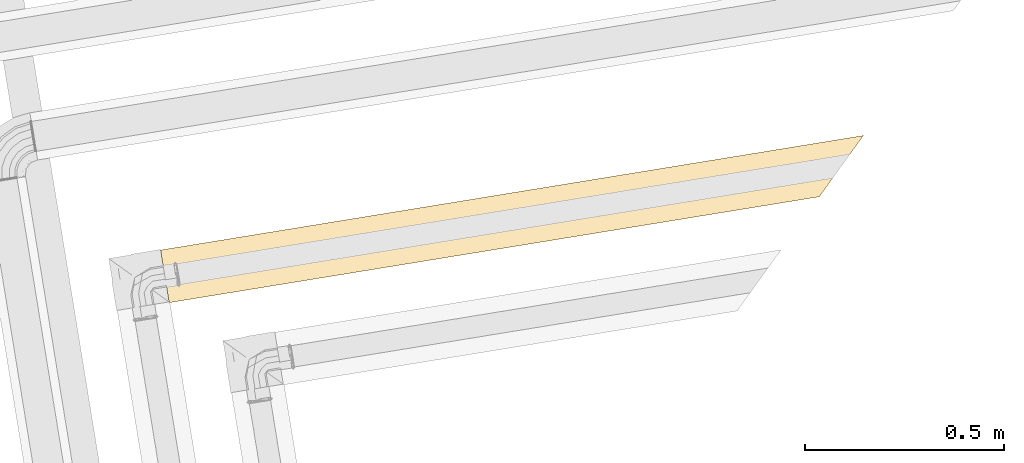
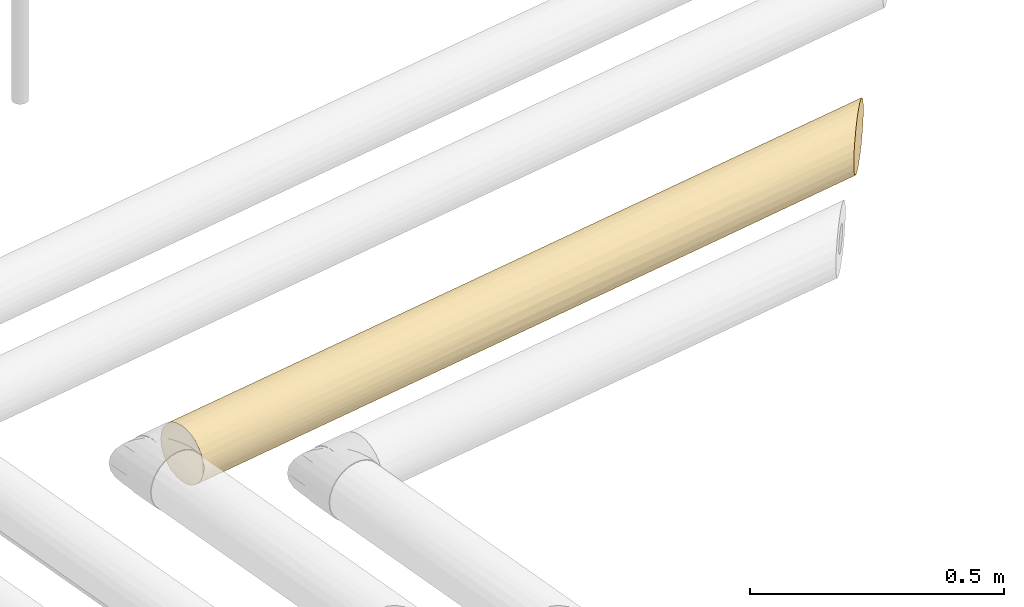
# One storey, part 5 of 46: 1 covering.
"""IFC2X3 building model written with IfcOpenShell, lengths in millimetres."""

from ifc_helpers import new_model, entity, si_unit, converted_unit, derived_unit, direction, frame, origin, origin_with_axes, place, context, subcontext, project, spatial, faceted_brep, type_object, element, save


model = new_model("IFC2X3")

# Units and contexts
model_context = context("Model", 3, precision=0.01, world=origin(), true_north=direction((6.12323399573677e-17, 1.0)))
plan_context = context("Plan", 3, precision=1e-05, world=origin_with_axes())
body_context = subcontext(model_context, "Body", "Model", "MODEL_VIEW")
ifc_project = project(units=[converted_unit("PLANEANGLEUNIT", "DEGREE", entity("IfcPositiveLengthMeasure", 0.0174532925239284), si_unit("PLANEANGLEUNIT", "RADIAN"), dimensions=[0, 0, 0, 0, 0, 0, 0]), si_unit("AREAUNIT", "SQUARE_METRE"), si_unit("LENGTHUNIT", "METRE", prefix="MILLI"), si_unit("MASSUNIT", "GRAM", prefix="KILO"), si_unit("POWERUNIT", "WATT"), si_unit("PRESSUREUNIT", "PASCAL", prefix="KILO"), si_unit("FORCEUNIT", "NEWTON", prefix="KILO"), si_unit("ELECTRICVOLTAGEUNIT", "VOLT"), si_unit("ELECTRICCURRENTUNIT", "AMPERE"), si_unit("THERMODYNAMICTEMPERATUREUNIT", "DEGREE_CELSIUS"), si_unit("TIMEUNIT", "SECOND"), si_unit("VOLUMEUNIT", "CUBIC_METRE"), derived_unit("LINEARVELOCITYUNIT", [(si_unit("LENGTHUNIT", "METRE"), 1), (si_unit("TIMEUNIT", "SECOND"), -1)]), derived_unit("VOLUMETRICFLOWRATEUNIT", [(si_unit("VOLUMEUNIT", "CUBIC_METRE"), 1), (si_unit("TIMEUNIT", "SECOND"), -1)]), derived_unit("THERMALTRANSMITTANCEUNIT", [(si_unit("POWERUNIT", "WATT"), 1), (si_unit("THERMODYNAMICTEMPERATUREUNIT", "KELVIN"), -1), (si_unit("AREAUNIT", "SQUARE_METRE"), -1)]), derived_unit("SOUNDPRESSUREUNIT", [(si_unit("PRESSUREUNIT", "PASCAL"), 1)])], contexts=[model_context, plan_context])

# Site, building, storey
site_placement = place(None, frame((-3.09682673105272e-06, 1.93776733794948e-05, 0.0), z_axis=(0.0, 0.0, 1.0), x_axis=(-0.160806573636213, 0.986985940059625, 0.0)))
site = spatial("IfcSite", under=ifc_project, at=site_placement, Name="Default", CompositionType="ELEMENT")
building_placement = place(site_placement, frame((0.0, 0.0, 0.0), z_axis=(0.0, 0.0, 1.0), x_axis=(1.0, -2.77555756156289e-17, 0.0)))
building = spatial("IfcBuilding", under=site, at=building_placement, Name="Bygning (endres i Project Information)", CompositionType="ELEMENT")
storey_placement = place(building_placement, frame((0.0, 0.0, 51360.0000000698), z_axis=(0.0, 0.0, 1.0), x_axis=(1.0, -2.77555756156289e-17, 0.0)))
storey = spatial("IfcBuildingStorey", under=building, at=storey_placement, Name="H01-Nivå D+0,36", CompositionType="ELEMENT", Elevation=51360.0000000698)

# Covering
covering_type = type_object("IfcCoveringType", Name="Pipe Insulation:GLAVA Rørskål ClimPipe Alu2, isol.kl.4, 45°C", PredefinedType="INSULATION")
covering_placement = place(storey_placement, frame((999234.809536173, -357080.599155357, 3371.40472772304), z_axis=(0.0, 0.0, 1.0), x_axis=(1.0, -2.77555756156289e-17, 0.0)))
element("IfcCovering", 1, at=covering_placement, inside=storey, type_object=covering_type, Name="Pipe Insulation:GLAVA Rørskål ClimPipe Alu2, isol.kl.4, 45°C", ObjectType="Pipe Insulation:GLAVA Rørskål ClimPipe Alu2, isol.kl.4, 45°C", PredefinedType="INSULATION", context=body_context, shape_type="Brep", body=[
    faceted_brep([(16.7908010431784, 9708.2000000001, 111.084056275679), (8.73898999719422, 9708.2000000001, 98.698851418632), (3.59527227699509, 9708.2000000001, 84.8433492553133), (3.59527227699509, 9708.2000000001, 52.3471952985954), (8.73898999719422, 9708.2000000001, 38.4916931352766), (16.7908010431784, 9708.2000000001, 26.1064882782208), (27.3581172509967, 9708.2000000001, 15.7890505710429), (39.9299875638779, 9708.2000000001, 8.03702380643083), (53.89434458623, 9708.2000000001, 3.2279812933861), (68.5952722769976, 9708.2000000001, 1.5952722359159), (85.9361483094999, 9708.2000000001, 3.87824187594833), (102.095272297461, 9708.2000000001, 10.5715701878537), (115.971426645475, 9708.2000000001, 21.2191179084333), (126.618974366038, 9708.2000000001, 35.0952722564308), (133.312302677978, 9708.2000000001, 51.2543962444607), (135.595272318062, 9708.2000000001, 68.5952722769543), (133.312302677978, 9708.2000000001, 85.9361483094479), (126.618974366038, 9708.2000000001, 102.095272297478), (115.971426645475, 9708.2000000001, 115.971426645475), (102.095272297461, 9708.2000000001, 126.618974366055), (85.9361483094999, 9708.2000000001, 133.31230267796), (68.5952722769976, 9708.2000000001, 135.595272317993), (53.89434458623, 9708.2000000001, 133.962563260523), (39.9299875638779, 9708.2000000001, 129.153520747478), (27.3581172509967, 9708.2000000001, 121.401493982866), (124.923624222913, 7930.07459050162, 104.860472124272), (116.919957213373, 7938.07825751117, 114.28445021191), (124.429036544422, 8156.16997375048, 105.630266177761), (131.619726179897, 7923.37848854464, 90.6212511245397), (132.521121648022, 7960.17939389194, 88.6573207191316), (132.541400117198, 7922.45681460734, 88.5911527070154), (135.200632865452, 7919.79758185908, 71.2915628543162), (135.595272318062, 7993.35369077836, 68.5952722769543), (131.977318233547, 8511.68347363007, 90.3143020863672), (135.595272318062, 8564.96668676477, 68.5952722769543), (135.595272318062, 8208.8666716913, 68.5952722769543), (132.027240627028, 8816.30592098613, 90.1680652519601), (134.349130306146, 9020.08430848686, 81.4572379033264), (130.495200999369, 9100.74379816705, 94.2350622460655), (124.14843047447, 8973.31062637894, 106.049866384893), (121.74994612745, 8627.87089482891, 109.382288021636), (109.00714311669, 8766.70508087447, 122.03571296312), (109.382288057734, 9239.52429401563, 121.749946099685), (121.749946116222, 9318.75035789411, 109.38228803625), (94.2350622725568, 9370.30025371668, 130.495200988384), (94.2350622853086, 8967.01252754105, 130.495200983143), (81.4398479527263, 9029.23046517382, 134.352529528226), (82.2711991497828, 8512.34591394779, 134.184669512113), (95.4628387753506, 8480.2790397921, 129.972253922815), (83.4952303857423, 8164.06537077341, 133.917483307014), (99.0911138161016, 8002.92093337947, 128.25265785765), (112.135693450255, 8289.34697450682, 119.519055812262), (112.885712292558, 7942.11250243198, 118.864861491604), (103.195906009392, 7951.80230871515, 125.445371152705), (99.0212598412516, 7955.97695488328, 128.287894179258), (97.5689618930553, 7957.42925283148, 128.834649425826), (3.54135588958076, 8051.45685883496, 84.6253604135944), (2.00669045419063, 8052.99152427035, 72.0188416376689), (3.50286917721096, 8277.15835896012, 84.4691207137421), (7.30928726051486, 8047.68892746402, 95.5606891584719), (7.47806633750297, 8057.07578988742, 96.0486353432), (10.1326682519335, 8437.5475955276, 101.323302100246), (14.9456371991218, 8061.02854857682, 108.729006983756), (21.7893065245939, 8411.67343374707, 116.534833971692), (21.7888472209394, 8897.8279775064, 116.534385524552), (36.6241517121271, 8483.21897183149, 127.475213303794), (30.622588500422, 8088.74645193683, 123.795591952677), (42.8002228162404, 8030.11539160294, 130.430662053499), (52.2834077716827, 8279.15836001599, 133.579294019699), (53.2854967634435, 8001.71271796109, 133.813644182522), (43.4404536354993, 8011.55776108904, 130.631779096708), (42.5146068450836, 8012.48360787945, 130.296796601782), (84.2467132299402, 7970.7515014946, 133.732745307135), (72.2834561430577, 7982.71475858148, 135.179969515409), (68.5952722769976, 7986.40294244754, 135.595272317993), (68.5952722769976, 8244.01183265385, 135.595272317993), (68.5952722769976, 8564.96984348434, 135.595272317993), (68.5952722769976, 7993.35339412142, 135.595272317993), (50.0582959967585, 8778.57043618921, 132.979901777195), (68.5952722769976, 9136.5835506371, 135.595272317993), (80.0627785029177, 9369.1445097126, 134.60660695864), (46.7792502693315, 9288.90871289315, 131.943999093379), (33.4297885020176, 9389.1795248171, 125.624990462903), (33.4297885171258, 9020.02273869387, 125.624990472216), (21.7893064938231, 9288.91015108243, 116.534833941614), (12.4225093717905, 9389.18605484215, 105.114044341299), (12.4225093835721, 9020.01789377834, 105.114044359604), (5.78391550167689, 9288.85365063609, 91.9133653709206), (2.53456714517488, 9277.4875076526, 79.774862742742), (2.09715197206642, 9706.70187969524, 76.7806251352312), (1.59527223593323, 9420.39171312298, 68.5952722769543), (1.59527223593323, 9134.58342628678, 68.5952722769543), (4.52398125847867, 8761.04320957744, 88.1878645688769), (1.59527223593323, 8562.96685261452, 68.5952722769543), (4.52398121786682, 8761.04321010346, 49.0026801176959), (2.53456713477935, 9277.48750789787, 57.4156818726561), (5.78391547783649, 9288.85365067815, 45.2771792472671), (12.4225093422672, 9389.18605478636, 32.0765002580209), (12.4225093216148, 9020.0178936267, 32.076500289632), (21.7893064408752, 9288.91015107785, 20.6557106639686), (33.4297884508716, 9389.17952465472, 11.5655541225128), (33.4297884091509, 9020.02273831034, 11.5655541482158), (21.7888471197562, 8897.8279776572, 20.6561591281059), (36.6241515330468, 8483.21897072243, 9.7153313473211), (21.7893063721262, 8411.67343284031, 20.6557107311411), (10.1326681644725, 8437.54759679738, 35.8672426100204), (14.9456370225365, 8061.02854895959, 28.4615378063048), (30.6225882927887, 8088.74644952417, 13.3949527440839), (15.3136154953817, 8039.68459922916, 28.0388228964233), (29.1976241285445, 8025.80059059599, 14.5746973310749), (31.818370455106, 8023.17984426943, 12.6749674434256), (7.16102552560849, 8047.83718919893, 42.0355406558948), (7.53653584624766, 8047.46167887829, 41.0298500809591), (7.44063150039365, 8064.04275700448, 41.2253998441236), (14.6299702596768, 8040.36824446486, 28.9576279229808), (3.54135584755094, 8051.45685887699, 52.5651843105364), (3.50286914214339, 8277.15835905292, 52.7214239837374), (2.00669044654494, 8052.99152427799, 65.171702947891), (1.59527223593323, 8053.4029424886, 68.5952722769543), (68.2807420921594, 7986.71747263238, 1.62898178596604), (68.5952722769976, 7986.40294244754, 1.5952722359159), (68.5952722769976, 7993.34947566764, 1.5952722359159), (53.2854964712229, 8001.71271825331, 3.37690043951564), (52.2834075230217, 8279.15835712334, 3.61125059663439), (43.4404532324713, 8011.55776149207, 6.55876560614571), (42.8002225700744, 8030.11538767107, 6.75988260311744), (42.5146066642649, 8012.48360806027, 6.89374802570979), (50.0582958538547, 8778.57043532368, 4.21064281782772), (68.5952722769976, 8564.96659009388, 1.5952722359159), (68.5952722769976, 9136.58370452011, 1.5952722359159), (46.7792501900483, 9288.90871282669, 5.24654548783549), (80.324895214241, 9363.99886528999, 2.63000906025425), (94.2350622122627, 9444.36346042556, 6.69534354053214), (94.2350621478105, 9100.74379995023, 6.6953435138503), (81.4572378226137, 9020.0843099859, 2.8414142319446), (90.1680651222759, 8816.3059235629, 5.16330388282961), (106.04986626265, 8973.31062875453, 13.0421139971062), (109.382287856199, 8627.87089809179, 15.4405982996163), (90.3143019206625, 8511.68347695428, 5.2132262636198), (79.2270520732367, 7975.7711626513, 3.22440261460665), (88.6757771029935, 7966.32243762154, 4.67548009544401), (89.1483845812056, 7965.84983014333, 4.90354439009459), (105.630265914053, 8156.16997724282, 12.7615078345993), (104.928549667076, 7950.06966505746, 12.3106597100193), (121.356026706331, 7933.64218801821, 28.6447638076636), (127.326753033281, 7927.67146169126, 36.6441216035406), (128.252657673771, 8002.92093652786, 38.0994303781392), (128.261373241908, 7926.73684148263, 38.1165266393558), (128.958102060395, 7926.04011266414, 39.8726581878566), (130.732096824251, 7924.26611790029, 45.147629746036), (134.179384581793, 7920.81883014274, 54.895424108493), (135.272634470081, 7919.72558025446, 65.538184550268), (134.119195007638, 8159.10563233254, 54.6090091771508), (129.972253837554, 8480.27904357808, 41.727705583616), (134.18816097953, 8508.82548736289, 54.9361011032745), (130.495200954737, 8967.01252971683, 42.9554822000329), (134.352529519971, 9029.23046937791, 55.750696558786), (135.595272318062, 9136.58334338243, 68.5952722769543), (134.606606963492, 9369.14451143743, 57.1277660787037), (134.560535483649, 9363.9988649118, 80.3248952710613), (130.495200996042, 9444.36345947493, 94.2350622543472), (130.495200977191, 9370.30025453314, 42.9554822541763), (121.74994605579, 9239.52429547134, 27.8082564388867), (122.035712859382, 8766.70508414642, 28.183401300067), (109.382287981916, 9318.75035921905, 15.4405983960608), (119.519055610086, 8289.34697778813, 25.0548508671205), (113.531994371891, 7941.46622035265, 19.207702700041), (116.391180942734, 7938.6070337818, 21.6813457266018), (68.9215278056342, 7986.0766869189, 1.64711270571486), (2.09715197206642, 9706.70187969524, 60.4099194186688), (1.59527223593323, 9706.1999999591, 68.5952722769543), (15.3136156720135, 8039.68459905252, 109.15172189), (14.6299704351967, 8040.36824428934, 108.232916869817), (29.1976242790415, 8025.8005904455, 122.615847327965), (31.8183707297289, 8023.17984399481, 124.515577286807), (68.2805686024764, 7986.71764612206, 135.56154417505), (7.53373605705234, 8047.46447866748, 96.1619505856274), (135.595272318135, 7919.4029424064, 68.5952722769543)], [[[0, 1, 2, 3, 4, 5, 6, 7, 8, 9, 10, 11, 12, 13, 14, 15, 16, 17, 18, 19, 20, 21, 22, 23, 24]], [[25, 26, 27]], [[28, 25, 27, 29]], [[30, 28, 29]], [[31, 30, 29, 32]], [[32, 29, 33]], [[34, 35, 32, 33]], [[33, 36, 34]], [[34, 36, 37]], [[37, 36, 38]], [[39, 38, 36]], [[40, 39, 36]], [[40, 41, 39]], [[39, 41, 42]], [[42, 43, 39]], [[18, 43, 42]], [[18, 42, 19]], [[42, 44, 19]], [[45, 44, 42]], [[45, 46, 44]], [[46, 45, 47]], [[45, 48, 47]], [[48, 49, 47]], [[50, 49, 48]], [[51, 50, 48]], [[52, 53, 50, 51]], [[53, 54, 50]], [[54, 55, 50]], [[56, 57, 58]], [[59, 56, 58, 60]], [[58, 61, 60]], [[62, 60, 61]], [[63, 62, 61]], [[64, 63, 61]], [[63, 64, 65]], [[63, 65, 66]], [[66, 65, 67]], [[68, 67, 65]], [[69, 70, 67, 68]], [[70, 71, 67]], [[72, 73, 49]], [[73, 74, 75, 49]], [[76, 75, 77, 68]], [[76, 47, 75]], [[78, 76, 68]], [[79, 76, 78]], [[46, 76, 79]], [[46, 79, 80]], [[80, 79, 21]], [[20, 80, 21]], [[20, 44, 80]], [[21, 79, 22]], [[81, 22, 79]], [[22, 81, 23]], [[81, 82, 23]], [[83, 82, 81]], [[78, 83, 81]], [[78, 65, 83]], [[83, 84, 82]], [[24, 82, 84]], [[0, 24, 84]], [[0, 84, 85]], [[86, 85, 84]], [[86, 84, 64]], [[86, 87, 85]], [[1, 85, 87]], [[2, 1, 87]], [[87, 88, 2]], [[2, 88, 89]], [[88, 90, 89]], [[91, 90, 88]], [[91, 88, 92]], [[93, 91, 92]], [[93, 92, 58]], [[91, 93, 94]], [[91, 94, 95]], [[96, 95, 94]], [[95, 96, 3]], [[3, 96, 4]], [[97, 4, 96]], [[98, 97, 96]], [[98, 99, 97]], [[5, 97, 99]], [[6, 5, 99]], [[99, 100, 6]], [[101, 100, 99]], [[101, 99, 102]], [[101, 102, 103]], [[102, 104, 103]], [[104, 102, 105]], [[104, 105, 106]], [[107, 104, 106]], [[108, 109, 107, 106]], [[109, 110, 107]], [[111, 112, 113]], [[112, 114, 106, 113]], [[115, 111, 113, 116]], [[116, 113, 105]], [[94, 116, 105]], [[94, 105, 98]], [[117, 115, 116]], [[118, 117, 116, 93]], [[119, 120, 121]], [[122, 119, 121, 123]], [[124, 122, 123, 125]], [[126, 124, 125]], [[123, 103, 125]], [[107, 125, 103]], [[123, 127, 103]], [[128, 127, 123]], [[128, 129, 127]], [[130, 127, 129]], [[130, 129, 8]], [[8, 7, 130]], [[7, 100, 130]], [[129, 9, 8]], [[129, 131, 9]], [[9, 131, 10]], [[131, 132, 10]], [[132, 131, 133]], [[131, 134, 133]], [[134, 135, 133]], [[136, 133, 135]], [[137, 136, 135]], [[138, 137, 135]], [[138, 135, 128]], [[128, 121, 138]], [[139, 140, 138, 121]], [[140, 141, 142, 138]], [[141, 143, 142]], [[144, 145, 146]], [[145, 147, 146]], [[147, 148, 146]], [[148, 149, 146]], [[150, 151, 152]], [[149, 150, 152, 146]], [[146, 152, 153]], [[153, 152, 154]], [[155, 153, 154]], [[156, 155, 154]], [[154, 34, 156]], [[156, 34, 157]], [[156, 157, 158]], [[158, 157, 15]], [[157, 159, 15]], [[15, 159, 16]], [[159, 160, 16]], [[160, 159, 38]], [[38, 43, 160]], [[17, 160, 43]], [[16, 160, 17]], [[37, 159, 157]], [[14, 158, 15]], [[14, 161, 158]], [[14, 13, 161]], [[162, 161, 13]], [[155, 161, 162]], [[155, 162, 163]], [[136, 163, 162]], [[162, 164, 136]], [[12, 164, 162]], [[164, 12, 11]], [[11, 132, 164]], [[12, 162, 13]], [[156, 158, 161]], [[155, 156, 161]], [[155, 163, 153]], [[165, 153, 163]], [[165, 163, 137]], [[142, 165, 137]], [[166, 167, 165, 142]], [[152, 35, 154]], [[165, 146, 153]], [[167, 144, 146, 165]], [[143, 166, 142]], [[168, 139, 121]], [[142, 137, 138]], [[137, 163, 136]], [[133, 136, 164]], [[128, 135, 134]], [[133, 164, 132]], [[10, 132, 11]], [[134, 131, 129]], [[130, 101, 127]], [[134, 129, 128]], [[123, 121, 128]], [[120, 168, 121]], [[110, 126, 125, 107]], [[114, 108, 106]], [[106, 105, 113]], [[102, 98, 105]], [[104, 107, 103]], [[103, 127, 101]], [[100, 101, 130]], [[100, 7, 6]], [[98, 102, 99]], [[5, 4, 97]], [[95, 3, 169]], [[169, 90, 95]], [[169, 170, 90]], [[94, 98, 96]], [[94, 93, 116]], [[95, 90, 91]], [[90, 170, 89]], [[92, 88, 87]], [[87, 86, 92]], [[61, 92, 86]], [[1, 0, 85]], [[84, 83, 64]], [[24, 23, 82]], [[81, 79, 78]], [[171, 172, 62]], [[173, 171, 62, 66]], [[174, 173, 66]], [[74, 175, 77]], [[175, 69, 68, 77]], [[78, 68, 65]], [[71, 174, 66, 67]], [[64, 83, 65]], [[86, 64, 61]], [[66, 62, 63]], [[172, 176, 60, 62]], [[58, 92, 61]], [[176, 59, 60]], [[57, 118, 93, 58]], [[51, 48, 41]], [[55, 72, 49, 50]], [[49, 75, 47]], [[45, 41, 48]], [[47, 76, 46]], [[46, 80, 44]], [[20, 19, 44]], [[17, 43, 18]], [[45, 42, 41]], [[51, 41, 40]], [[27, 51, 40]], [[27, 40, 33]], [[38, 39, 43]], [[159, 37, 38]], [[37, 157, 34]], [[33, 40, 36]], [[151, 177, 35, 152]], [[34, 154, 35]], [[29, 27, 33]], [[26, 52, 51, 27]], [[177, 31, 32]], [[169, 3, 2, 89, 170]], [[28, 30, 31, 177, 151, 150, 149, 148, 147, 145, 144, 167, 166, 143, 141, 140, 139, 168, 120, 119, 122, 124, 126, 110, 109, 108, 114, 112, 111, 115, 117, 118, 57, 56, 59, 176, 172, 171, 173, 174, 71, 70, 69, 175, 74, 73, 72, 55, 54, 53, 52, 26, 25]]], orient=[[False], [False], [False], [False], [False], [False], [False], [False], [False], [False], [False], [False], [False], [False], [False], [False], [False], [False], [False], [False], [False], [False], [False], [False], [False], [False], [False], [False], [False], [False], [False], [False], [False], [False], [False], [False], [False], [False], [False], [False], [False], [False], [False], [False], [False], [False], [False], [False], [False], [False], [False], [False], [False], [False], [False], [False], [False], [False], [False], [False], [False], [False], [False], [False], [False], [False], [False], [False], [False], [False], [False], [False], [False], [False], [False], [False], [False], [False], [False], [False], [False], [False], [False], [False], [False], [False], [False], [False], [False], [False], [False], [False], [False], [False], [False], [False], [False], [False], [False], [False], [False], [False], [False], [False], [False], [False], [False], [False], [False], [False], [False], [False], [False], [False], [False], [False], [False], [False], [False], [False], [False], [False], [False], [False], [False], [False], [False], [False], [False], [False], [False], [False], [False], [False], [False], [False], [False], [False], [False], [False], [False], [False], [False], [False], [False], [False], [False], [False], [False], [False], [False], [False], [False], [False], [False], [False], [False], [False], [False], [False], [False], [False], [False], [False], [False], [False], [False], [False], [False], [False], [False], [False], [False], [False], [False], [False], [False], [False], [False], [False], [False], [False], [False], [False], [False], [False], [False], [False], [False], [False], [False], [False], [False], [False], [False], [False], [False], [False], [False], [False], [False], [False], [False], [False], [False], [False], [False], [False], [False], [False], [False], [False], [False], [False], [False], [False], [False], [False], [False], [False], [False], [False], [False], [False], [False], [False], [False], [False], [False], [False], [False], [False], [False], [False], [False], [False], [False], [False], [False], [False], [False], [False], [False], [False], [False], [False], [False], [False]]),
])

save(model, "model.ifc")
